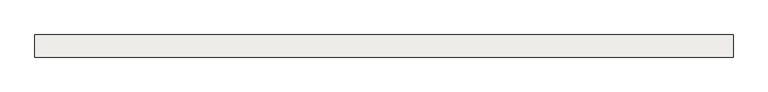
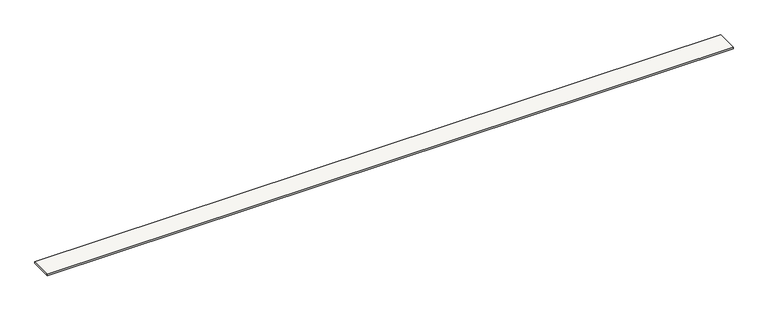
"""IFC4 building model written with IfcOpenShell, lengths in millimetres: slab geometry, Sol-02 - Tablette bois 2cm."""

from ifc_helpers import new_model, si_unit, origin, origin_with_axes, place, context, project, spatial, polyline, outline, extrude, source, transform, mapped, element, save


def slab_98e44687(model_context):
    return source(origin(), model_context, "Body", "SweptSolid", [
        extrude(outline(polyline([(47108.9999799, 10980.0), (36997.0000007, 10980.0), (36997.0000007, 11300.0), (47108.9999799, 11300.0), (47108.9999799, 10980.0)])), origin_with_axes(), (0.0, 0.0, 1.0), 20.0),
    ])


if __name__ == "__main__":
    model = new_model("IFC4")
    model_context = context("Model", 3, world=origin())
    ifc_project = project(units=[si_unit("LENGTHUNIT", "METRE", prefix="MILLI")], contexts=[model_context])
    site = spatial("IfcSite", under=ifc_project)
    building = spatial("IfcBuilding", under=site)
    placement = place(None, origin())
    slab_shape = slab_98e44687(model_context)
    element("IfcSlab", 1, ObjectType="Sol-02 - Tablette bois 2cm", at=placement, inside=building, context=model_context, shape_type="MappedRepresentation", body=[
        mapped(slab_shape, transform((0.0, 0.0, 0.0), x_axis=(1.0, 0.0, 0.0), y_axis=(0.0, 1.0, 0.0), z_axis=(0.0, 0.0, 1.0))),
    ])
    save(model, "model.ifc")
